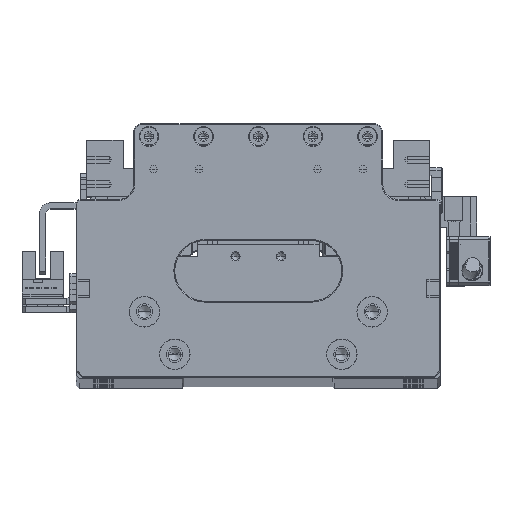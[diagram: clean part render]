
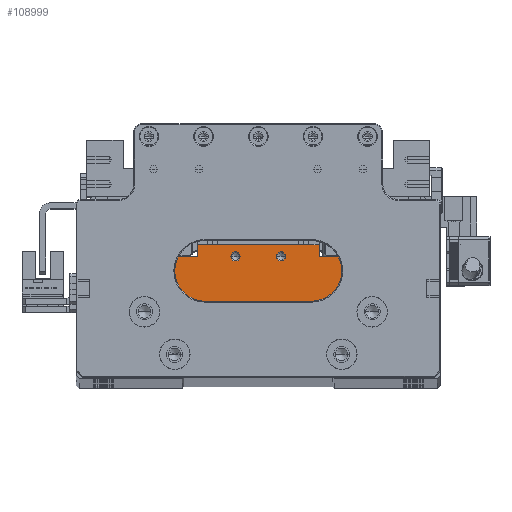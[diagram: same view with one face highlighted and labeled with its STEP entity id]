
A CAD part, top view. The second image highlights one B-rep face of the part: STEP entity #108999.
In plain terms, the highlighted planar face has unit normal (0, 0, 1).
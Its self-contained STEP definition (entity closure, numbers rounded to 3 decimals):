
#3288 = CARTESIAN_POINT ( 'NONE',  ( -112.525, 59.78, 462.722 ) ) ;
#4020 = LINE ( 'NONE', #70658, #112810 ) ;
#5334 = VERTEX_POINT ( 'NONE', #36565 ) ;
#5476 = VERTEX_POINT ( 'NONE', #91769 ) ;
#6204 = DIRECTION ( 'NONE',  ( 0., 0., -1. ) ) ;
#7554 = FACE_BOUND ( 'NONE', #42111, .T. ) ;
#9128 = EDGE_CURVE ( 'NONE', #60590, #5334, #117569, .T. ) ;
#11221 = CARTESIAN_POINT ( 'NONE',  ( -112.525, 78.98, 462.722 ) ) ;
#12186 = VECTOR ( 'NONE', #133666, 1000. ) ;
#13095 = ORIENTED_EDGE ( 'NONE', *, *, #69791, .F. ) ;
#13124 = EDGE_CURVE ( 'NONE', #35864, #13572, #92429, .T. ) ;
#13572 = VERTEX_POINT ( 'NONE', #114155 ) ;
#14126 = DIRECTION ( 'NONE',  ( 1., 0., 0. ) ) ;
#17603 = DIRECTION ( 'NONE',  ( 0., 0., 1. ) ) ;
#17849 = VECTOR ( 'NONE', #18724, 1000. ) ;
#18724 = DIRECTION ( 'NONE',  ( 1., 0., 0. ) ) ;
#18930 = DIRECTION ( 'NONE',  ( 0., 0., 1. ) ) ;
#18950 = CIRCLE ( 'NONE', #105486, 1.525 ) ;
#25350 = EDGE_CURVE ( 'NONE', #5476, #60590, #69161, .T. ) ;
#25677 = CARTESIAN_POINT ( 'NONE',  ( -75.125, 79.08, 462.722 ) ) ;
#26011 = VECTOR ( 'NONE', #14126, 1000. ) ;
#27071 = EDGE_LOOP ( 'NONE', ( #13095, #91861 ) ) ;
#29854 = VERTEX_POINT ( 'NONE', #110345 ) ;
#29995 = ORIENTED_EDGE ( 'NONE', *, *, #105067, .F. ) ;
#30294 = VERTEX_POINT ( 'NONE', #124883 ) ;
#33000 = EDGE_CURVE ( 'NONE', #105137, #57529, #4020, .T. ) ;
#35864 = VERTEX_POINT ( 'NONE', #130720 ) ;
#36267 = DIRECTION ( 'NONE',  ( 1., 0., 0. ) ) ;
#36565 = CARTESIAN_POINT ( 'NONE',  ( -52.725, 59.78, 462.722 ) ) ;
#37199 = ORIENTED_EDGE ( 'NONE', *, *, #42877, .F. ) ;
#37612 = PLANE ( 'NONE',  #103676 ) ;
#37841 = ORIENTED_EDGE ( 'NONE', *, *, #9128, .F. ) ;
#39849 = AXIS2_PLACEMENT_3D ( 'NONE', #25677, #99324, #36267 ) ;
#41186 = VECTOR ( 'NONE', #50218, 1000. ) ;
#42111 = EDGE_LOOP ( 'NONE', ( #66797, #65408 ) ) ;
#42877 = EDGE_CURVE ( 'NONE', #30294, #5476, #55160, .T. ) ;
#43845 = CARTESIAN_POINT ( 'NONE',  ( -52.725, 71.48, 462.722 ) ) ;
#44305 = DIRECTION ( 'NONE',  ( 0., -1., 0. ) ) ;
#50218 = DIRECTION ( 'NONE',  ( 1., 0., 0. ) ) ;
#50997 = CIRCLE ( 'NONE', #39849, 1.525 ) ;
#53372 = ORIENTED_EDGE ( 'NONE', *, *, #118392, .T. ) ;
#54771 = DIRECTION ( 'NONE',  ( 0., 0., 1. ) ) ;
#55160 = LINE ( 'NONE', #132032, #135822 ) ;
#57529 = VERTEX_POINT ( 'NONE', #85611 ) ;
#60080 = DIRECTION ( 'NONE',  ( 0., 1., 0. ) ) ;
#60590 = VERTEX_POINT ( 'NONE', #119846 ) ;
#61143 = CARTESIAN_POINT ( 'NONE',  ( -90.125, 82.98, 462.722 ) ) ;
#62290 = CARTESIAN_POINT ( 'NONE',  ( -102.625, 78.98, 462.722 ) ) ;
#62334 = VERTEX_POINT ( 'NONE', #11221 ) ;
#65408 = ORIENTED_EDGE ( 'NONE', *, *, #133795, .F. ) ;
#66797 = ORIENTED_EDGE ( 'NONE', *, *, #13124, .F. ) ;
#69161 = LINE ( 'NONE', #71380, #41186 ) ;
#69360 = CIRCLE ( 'NONE', #126821, 1.525 ) ;
#69791 = EDGE_CURVE ( 'NONE', #29854, #96993, #69360, .T. ) ;
#70597 = CARTESIAN_POINT ( 'NONE',  ( -90.125, 78.98, 462.722 ) ) ;
#70658 = CARTESIAN_POINT ( 'NONE',  ( -102.625, 71.48, 462.722 ) ) ;
#71380 = CARTESIAN_POINT ( 'NONE',  ( -90.125, 78.98, 462.722 ) ) ;
#75625 = ORIENTED_EDGE ( 'NONE', *, *, #33000, .F. ) ;
#77295 = ORIENTED_EDGE ( 'NONE', *, *, #25350, .F. ) ;
#79426 = ORIENTED_EDGE ( 'NONE', *, *, #135572, .F. ) ;
#79903 = DIRECTION ( 'NONE',  ( -1., 0., 0. ) ) ;
#80665 = CARTESIAN_POINT ( 'NONE',  ( -90.125, 79.08, 462.722 ) ) ;
#81375 = LINE ( 'NONE', #121692, #134062 ) ;
#81839 = VERTEX_POINT ( 'NONE', #3288 ) ;
#82038 = CARTESIAN_POINT ( 'NONE',  ( -75.125, 79.08, 462.722 ) ) ;
#85611 = CARTESIAN_POINT ( 'NONE',  ( -102.625, 82.98, 462.722 ) ) ;
#87820 = CARTESIAN_POINT ( 'NONE',  ( -90.125, 59.78, 462.722 ) ) ;
#89631 = VECTOR ( 'NONE', #44305, 1000. ) ;
#90424 = DIRECTION ( 'NONE',  ( 0., 1., 0. ) ) ;
#91275 = DIRECTION ( 'NONE',  ( 1., 0., 0. ) ) ;
#91646 = FACE_OUTER_BOUND ( 'NONE', #136443, .T. ) ;
#91769 = CARTESIAN_POINT ( 'NONE',  ( -62.625, 78.98, 462.722 ) ) ;
#91861 = ORIENTED_EDGE ( 'NONE', *, *, #109728, .F. ) ;
#92429 = CIRCLE ( 'NONE', #110234, 1.525 ) ;
#92622 = DIRECTION ( 'NONE',  ( 1., 0., 0. ) ) ;
#96993 = VERTEX_POINT ( 'NONE', #122002 ) ;
#99324 = DIRECTION ( 'NONE',  ( 0., 0., 1. ) ) ;
#101210 = DIRECTION ( 'NONE',  ( 0., -1., 0. ) ) ;
#101862 = LINE ( 'NONE', #61143, #17849 ) ;
#103676 = AXIS2_PLACEMENT_3D ( 'NONE', #111226, #6204, #79903 ) ;
#105067 = EDGE_CURVE ( 'NONE', #62334, #105137, #127517, .T. ) ;
#105137 = VERTEX_POINT ( 'NONE', #62290 ) ;
#105486 = AXIS2_PLACEMENT_3D ( 'NONE', #80665, #17603, #91275 ) ;
#106754 = LINE ( 'NONE', #87820, #26011 ) ;
#108999 = ADVANCED_FACE ( 'NONE', ( #91646, #7554, #119583 ), #37612, .F. ) ;
#109728 = EDGE_CURVE ( 'NONE', #96993, #29854, #18950, .T. ) ;
#110234 = AXIS2_PLACEMENT_3D ( 'NONE', #82038, #18930, #92622 ) ;
#110345 = CARTESIAN_POINT ( 'NONE',  ( -88.6, 79.08, 462.722 ) ) ;
#111226 = CARTESIAN_POINT ( 'NONE',  ( -90.125, 71.48, 462.722 ) ) ;
#112810 = VECTOR ( 'NONE', #60080, 1000. ) ;
#113804 = ORIENTED_EDGE ( 'NONE', *, *, #131921, .F. ) ;
#114155 = CARTESIAN_POINT ( 'NONE',  ( -76.65, 79.08, 462.722 ) ) ;
#117569 = LINE ( 'NONE', #43845, #89631 ) ;
#117762 = CARTESIAN_POINT ( 'NONE',  ( -90.125, 79.08, 462.722 ) ) ;
#118392 = EDGE_CURVE ( 'NONE', #81839, #5334, #106754, .T. ) ;
#119583 = FACE_BOUND ( 'NONE', #27071, .T. ) ;
#119846 = CARTESIAN_POINT ( 'NONE',  ( -52.725, 78.98, 462.722 ) ) ;
#121692 = CARTESIAN_POINT ( 'NONE',  ( -112.525, 71.48, 462.722 ) ) ;
#122002 = CARTESIAN_POINT ( 'NONE',  ( -91.65, 79.08, 462.722 ) ) ;
#124883 = CARTESIAN_POINT ( 'NONE',  ( -62.625, 82.98, 462.722 ) ) ;
#126821 = AXIS2_PLACEMENT_3D ( 'NONE', #117762, #54771, #128380 ) ;
#127517 = LINE ( 'NONE', #70597, #12186 ) ;
#128380 = DIRECTION ( 'NONE',  ( 1., 0., 0. ) ) ;
#130720 = CARTESIAN_POINT ( 'NONE',  ( -73.6, 79.08, 462.722 ) ) ;
#131921 = EDGE_CURVE ( 'NONE', #81839, #62334, #81375, .T. ) ;
#132032 = CARTESIAN_POINT ( 'NONE',  ( -62.625, 71.48, 462.722 ) ) ;
#133666 = DIRECTION ( 'NONE',  ( 1., 0., 0. ) ) ;
#133795 = EDGE_CURVE ( 'NONE', #13572, #35864, #50997, .T. ) ;
#134062 = VECTOR ( 'NONE', #90424, 1000. ) ;
#135572 = EDGE_CURVE ( 'NONE', #57529, #30294, #101862, .T. ) ;
#135822 = VECTOR ( 'NONE', #101210, 1000. ) ;
#136443 = EDGE_LOOP ( 'NONE', ( #29995, #113804, #53372, #37841, #77295, #37199, #79426, #75625 ) ) ;
